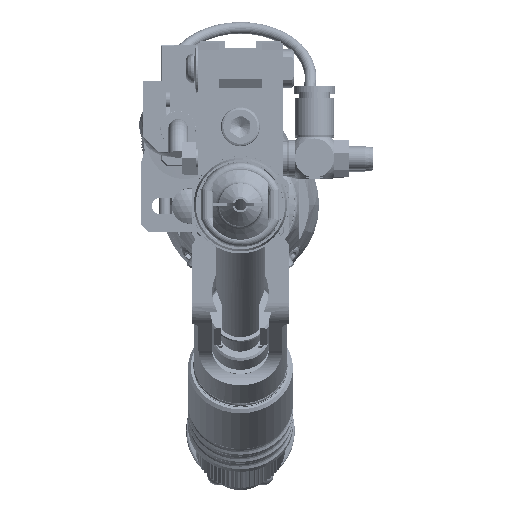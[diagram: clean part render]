
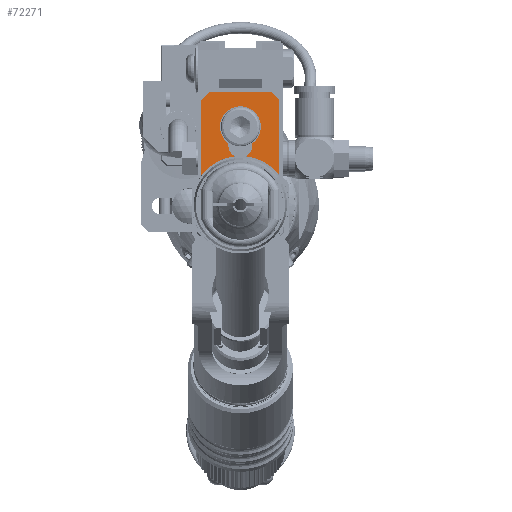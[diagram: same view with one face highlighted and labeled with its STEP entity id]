
A CAD part, front view. The second image highlights one B-rep face of the part: STEP entity #72271.
In plain terms, the highlighted planar face has unit normal (0, -1, 0).
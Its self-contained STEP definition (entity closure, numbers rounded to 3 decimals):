
#7664=FACE_BOUND($,#16748,.T.);
#11998=FACE_OUTER_BOUND($,#16747,.T.);
#16747=EDGE_LOOP($,(#53725,#53726,#53727,#53728,#53729,#53730,#53731,#53732));
#16748=EDGE_LOOP($,(#53733,#53734,#53735,#53736));
#21774=LINE($,#115115,#26102);
#21780=LINE($,#115128,#26108);
#21781=LINE($,#115130,#26109);
#21782=LINE($,#115132,#26110);
#21783=LINE($,#115134,#26111);
#21784=LINE($,#115138,#26112);
#21785=LINE($,#115140,#26113);
#21786=LINE($,#115141,#26114);
#21787=LINE($,#115143,#26115);
#26102=VECTOR($,#87206,0.563);
#26108=VECTOR($,#87214,16.);
#26109=VECTOR($,#87215,2.828);
#26110=VECTOR($,#87216,20.5);
#26111=VECTOR($,#87217,2.401);
#26112=VECTOR($,#87220,2.401);
#26113=VECTOR($,#87221,20.5);
#26114=VECTOR($,#87222,2.828);
#26115=VECTOR($,#87223,0.563);
#30320=CIRCLE($,#77538,5.25);
#30321=CIRCLE($,#77542,10.);
#30322=CIRCLE($,#77543,3.1);
#33892=VERTEX_POINT($,#115103);
#33894=VERTEX_POINT($,#115107);
#33895=VERTEX_POINT($,#115114);
#33900=VERTEX_POINT($,#115126);
#33901=VERTEX_POINT($,#115127);
#33902=VERTEX_POINT($,#115129);
#33903=VERTEX_POINT($,#115131);
#33904=VERTEX_POINT($,#115133);
#33905=VERTEX_POINT($,#115135);
#33906=VERTEX_POINT($,#115137);
#33907=VERTEX_POINT($,#115139);
#33908=VERTEX_POINT($,#115142);
#41410=EDGE_CURVE($,#33892,#33894,#30320,.T.);
#41413=EDGE_CURVE($,#33895,#33892,#21774,.T.);
#41419=EDGE_CURVE($,#33900,#33901,#21780,.T.);
#41420=EDGE_CURVE($,#33901,#33902,#21781,.T.);
#41421=EDGE_CURVE($,#33902,#33903,#21782,.T.);
#41422=EDGE_CURVE($,#33903,#33904,#21783,.T.);
#41423=EDGE_CURVE($,#33905,#33904,#30321,.T.);
#41424=EDGE_CURVE($,#33905,#33906,#21784,.T.);
#41425=EDGE_CURVE($,#33906,#33907,#21785,.T.);
#41426=EDGE_CURVE($,#33907,#33900,#21786,.T.);
#41427=EDGE_CURVE($,#33894,#33908,#21787,.T.);
#41428=EDGE_CURVE($,#33908,#33895,#30322,.T.);
#53725=ORIENTED_EDGE($,*,*,#41419,.T.);
#53726=ORIENTED_EDGE($,*,*,#41420,.T.);
#53727=ORIENTED_EDGE($,*,*,#41421,.T.);
#53728=ORIENTED_EDGE($,*,*,#41422,.T.);
#53729=ORIENTED_EDGE($,*,*,#41423,.F.);
#53730=ORIENTED_EDGE($,*,*,#41424,.T.);
#53731=ORIENTED_EDGE($,*,*,#41425,.T.);
#53732=ORIENTED_EDGE($,*,*,#41426,.T.);
#53733=ORIENTED_EDGE($,*,*,#41410,.T.);
#53734=ORIENTED_EDGE($,*,*,#41427,.T.);
#53735=ORIENTED_EDGE($,*,*,#41428,.T.);
#53736=ORIENTED_EDGE($,*,*,#41413,.T.);
#69587=PLANE($,#77541);
#72271=ADVANCED_FACE($,(#11998,#7664),#69587,.F.);
#77538=AXIS2_PLACEMENT_3D($,#115109,#87198,#87199);
#77541=AXIS2_PLACEMENT_3D($,#115125,#87212,#87213);
#77542=AXIS2_PLACEMENT_3D($,#115136,#87218,#87219);
#77543=AXIS2_PLACEMENT_3D($,#115144,#87224,#87225);
#87198=DIRECTION('center_axis',(0.,1.,0.));
#87199=DIRECTION('ref_axis',(0.,0.,
-1.));
#87206=DIRECTION($,(0.,0.,1.));
#87212=DIRECTION('center_axis',(0.,1.,0.));
#87213=DIRECTION('ref_axis',(0.,0.,1.));
#87214=DIRECTION($,(-1.,0.,0.));
#87215=DIRECTION($,(-0.707,0.,-0.707));
#87216=DIRECTION($,(0.,0.,-1.));
#87217=DIRECTION($,(1.,0.,0.));
#87218=DIRECTION('center_axis',(0.,-1.,0.));
#87219=DIRECTION('ref_axis',(0.,0.,
-1.));
#87220=DIRECTION($,(1.,0.,0.));
#87221=DIRECTION($,(0.,0.,1.));
#87222=DIRECTION($,(-0.707,0.,0.707));
#87223=DIRECTION($,(0.,0.,-1.));
#87224=DIRECTION('center_axis',(0.,1.,0.));
#87225=DIRECTION('ref_axis',(-1.,0.,0.));
#115103=CARTESIAN_POINT('',(-3.1,-17.9,-26.237));
#115107=CARTESIAN_POINT('',(3.1,-17.9,-26.237));
#115109=CARTESIAN_POINT('Origin',(0.,-17.9,
-22.));
#115114=CARTESIAN_POINT('',(-3.1,-17.9,-26.8));
#115115=CARTESIAN_POINT($,(-3.1,-17.9,-26.8));
#115125=CARTESIAN_POINT('Origin',(0.,-17.9,
-24.432));
#115126=CARTESIAN_POINT('',(8.,-17.9,-13.));
#115127=CARTESIAN_POINT('',(-8.,-17.9,-13.));
#115128=CARTESIAN_POINT($,(8.,-17.9,-13.));
#115129=CARTESIAN_POINT('',(-10.,-17.9,-15.));
#115130=CARTESIAN_POINT($,(-8.,-17.9,-13.));
#115131=CARTESIAN_POINT('',(-10.,-17.9,-35.5));
#115132=CARTESIAN_POINT($,(-10.,-17.9,-15.));
#115133=CARTESIAN_POINT('',(-7.599,-17.9,-35.5));
#115134=CARTESIAN_POINT($,(-10.,-17.9,-35.5));
#115135=CARTESIAN_POINT('',(7.599,-17.9,-35.5));
#115136=CARTESIAN_POINT('Origin',(0.,-17.9,
-42.));
#115137=CARTESIAN_POINT('',(10.,-17.9,-35.5));
#115138=CARTESIAN_POINT($,(7.599,-17.9,-35.5));
#115139=CARTESIAN_POINT('',(10.,-17.9,-15.));
#115140=CARTESIAN_POINT($,(10.,-17.9,-35.5));
#115141=CARTESIAN_POINT($,(10.,-17.9,-15.));
#115142=CARTESIAN_POINT('',(3.1,-17.9,-26.8));
#115143=CARTESIAN_POINT($,(3.1,-17.9,-26.237));
#115144=CARTESIAN_POINT('Origin',(0.,-17.9,
-26.8));
